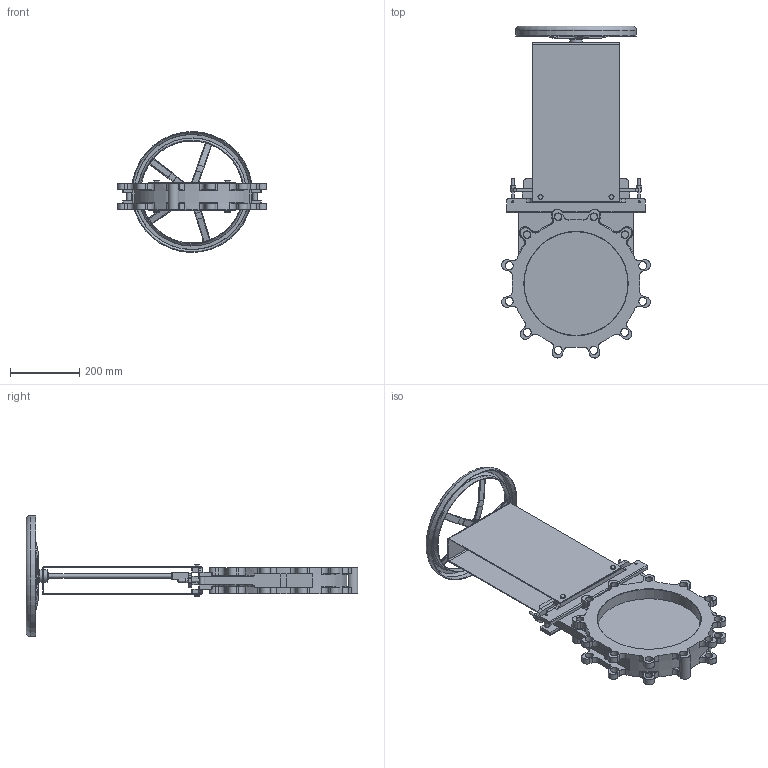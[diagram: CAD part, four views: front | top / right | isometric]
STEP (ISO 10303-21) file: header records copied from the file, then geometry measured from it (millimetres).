
FILE_DESCRIPTION(('STEP AP214'), '1');
FILE_NAME('GVKN1331N-2W-Fb-S Çàäâèæêà øèáåðíàÿ DN.ru Äó300 Ðó10', '', ('UNSPECIFIED'), ('UNSPECIFIED'), 'C3D Converter', 'C3D Toolkit', '');
FILE_SCHEMA(('AUTOMOTIVE_DESIGN { 1 0 10303 214 3 1 1}'));
Length unit declared in the file: millimetre
Products named in the file (1): GVKN1331N-2W-Fb-S
Bounding box: 430.75 x 960.38 x 349.94 mm (x, y, z)
Volume: 6265098.8 mm3; surface area: 1373934.2 mm2
Topology: 1 solids, 1 shells, 842 faces, 2174 edges, 1370 vertices
Faces by surface type: plane 389, cylinder 255, cone 78, torus 61, bspline 58, sphere 1
Full cylindrical faces by diameter (mm): 4 x2, 6 x4, 7 x4, 8 x4, 12 x1, 13 x4, 16 x3, 20 x10, 21 x1, 23 x15, 25 x1, 35 x2, 36 x1, 40 x1, 295.62 x1, 299.62 x1, 300 x2, 346 x1, 350 x1
Entity records: 43455 total; most frequent: CARTESIAN_POINT 17998, ORIENTED_EDGE 4174, DIRECTION 4066, EDGE_CURVE 2087, AXIS2_PLACEMENT_3D 1530, VERTEX_POINT 1369, EDGE_LOOP 1030, LINE 1006
